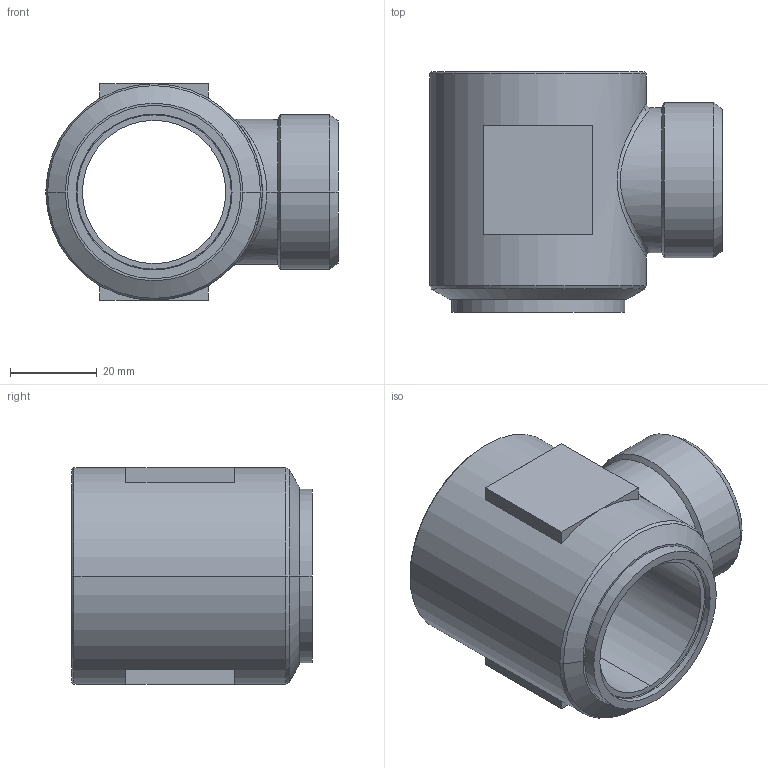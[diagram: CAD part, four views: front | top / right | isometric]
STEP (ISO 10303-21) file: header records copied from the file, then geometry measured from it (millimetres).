
FILE_DESCRIPTION((''),'2;1');
FILE_NAME('101321.stp','2007-10-30T15:39:15',(''),(''),'AutoCAD STEP 2000i','AutoCAD 2000i',', , ');
FILE_SCHEMA(('CONFIG_CONTROL_DESIGN'));
Length unit declared in the file: millimetre
Products named in the file (2): 101321.0; 1094#0
Assembly tree (1 placements, depth 2):
  101321.0
    1094#0
Bounding box: 67.5 x 55.5 x 50 mm (x, y, z)
Volume: 66688.9 mm3; surface area: 20067.2 mm2
Topology: 1 solids, 1 shells, 55 faces, 127 edges, 79 vertices
Faces by surface type: plane 20, cylinder 16, cone 14, bspline 5
Entity records: 2096 total; most frequent: CARTESIAN_POINT 711, DIRECTION 285, ORIENTED_EDGE 254, EDGE_CURVE 127, AXIS2_PLACEMENT_3D 115, VERTEX_POINT 79, EDGE_LOOP 64, CIRCLE 63
